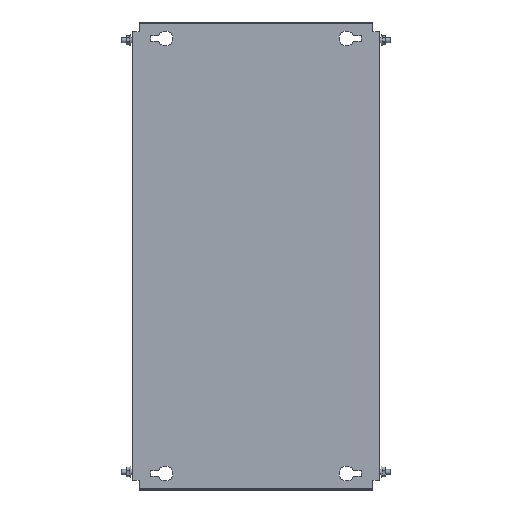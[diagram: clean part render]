
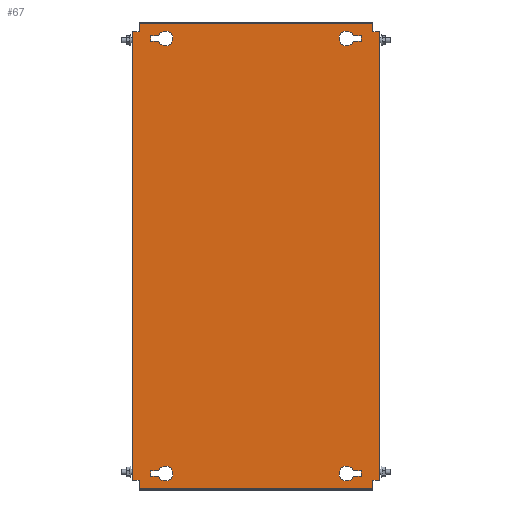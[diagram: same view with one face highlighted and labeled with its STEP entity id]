
A CAD part, top view. The second image highlights one B-rep face of the part: STEP entity #67.
In plain terms, the highlighted planar face has unit normal (0, 0, 1).
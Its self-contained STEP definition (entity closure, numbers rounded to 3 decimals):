
#67 = ADVANCED_FACE('',(#68,#103,#138,#300,#335),#370,.T.);
#68 = FACE_BOUND('',#69,.T.);
#69 = EDGE_LOOP('',(#70,#80,#88,#96));
#70 = ORIENTED_EDGE('',*,*,#71,.T.);
#71 = EDGE_CURVE('',#72,#74,#76,.T.);
#72 = VERTEX_POINT('',#73);
#73 = CARTESIAN_POINT('',(118.393,267.75,2.));
#74 = VERTEX_POINT('',#75);
#75 = CARTESIAN_POINT('',(128.,267.75,2.));
#76 = LINE('',#77,#78);
#77 = CARTESIAN_POINT('',(127.,267.75,2.));
#78 = VECTOR('',#79,1.);
#79 = DIRECTION('',(1.,0.,0.));
#80 = ORIENTED_EDGE('',*,*,#81,.T.);
#81 = EDGE_CURVE('',#74,#82,#84,.T.);
#82 = VERTEX_POINT('',#83);
#83 = CARTESIAN_POINT('',(128.,261.25,2.));
#84 = LINE('',#85,#86);
#85 = CARTESIAN_POINT('',(128.,267.75,2.));
#86 = VECTOR('',#87,1.);
#87 = DIRECTION('',(0.,-1.,0.));
#88 = ORIENTED_EDGE('',*,*,#89,.T.);
#89 = EDGE_CURVE('',#82,#90,#92,.T.);
#90 = VERTEX_POINT('',#91);
#91 = CARTESIAN_POINT('',(118.393,261.25,2.));
#92 = LINE('',#93,#94);
#93 = CARTESIAN_POINT('',(127.,261.25,2.));
#94 = VECTOR('',#95,1.);
#95 = DIRECTION('',(-1.,0.,0.));
#96 = ORIENTED_EDGE('',*,*,#97,.T.);
#97 = EDGE_CURVE('',#90,#72,#98,.T.);
#98 = CIRCLE('',#99,9.);
#99 = AXIS2_PLACEMENT_3D('',#100,#101,#102);
#100 = CARTESIAN_POINT('',(110.,264.5,2.));
#101 = DIRECTION('',(0.,0.,-1.));
#102 = DIRECTION('',(1.,0.,0.));
#103 = FACE_BOUND('',#104,.T.);
#104 = EDGE_LOOP('',(#105,#115,#123,#131));
#105 = ORIENTED_EDGE('',*,*,#106,.T.);
#106 = EDGE_CURVE('',#107,#109,#111,.T.);
#107 = VERTEX_POINT('',#108);
#108 = CARTESIAN_POINT('',(-118.393,-267.75,2.));
#109 = VERTEX_POINT('',#110);
#110 = CARTESIAN_POINT('',(-128.,-267.75,2.));
#111 = LINE('',#112,#113);
#112 = CARTESIAN_POINT('',(-127.,-267.75,2.));
#113 = VECTOR('',#114,1.);
#114 = DIRECTION('',(-1.,0.,0.));
#115 = ORIENTED_EDGE('',*,*,#116,.T.);
#116 = EDGE_CURVE('',#109,#117,#119,.T.);
#117 = VERTEX_POINT('',#118);
#118 = CARTESIAN_POINT('',(-128.,-261.25,2.));
#119 = LINE('',#120,#121);
#120 = CARTESIAN_POINT('',(-128.,-267.75,2.));
#121 = VECTOR('',#122,1.);
#122 = DIRECTION('',(0.,1.,0.));
#123 = ORIENTED_EDGE('',*,*,#124,.T.);
#124 = EDGE_CURVE('',#117,#125,#127,.T.);
#125 = VERTEX_POINT('',#126);
#126 = CARTESIAN_POINT('',(-118.393,-261.25,2.));
#127 = LINE('',#128,#129);
#128 = CARTESIAN_POINT('',(-127.,-261.25,2.));
#129 = VECTOR('',#130,1.);
#130 = DIRECTION('',(1.,0.,-0.));
#131 = ORIENTED_EDGE('',*,*,#132,.T.);
#132 = EDGE_CURVE('',#125,#107,#133,.T.);
#133 = CIRCLE('',#134,9.);
#134 = AXIS2_PLACEMENT_3D('',#135,#136,#137);
#135 = CARTESIAN_POINT('',(-110.,-264.5,2.));
#136 = DIRECTION('',(0.,0.,-1.));
#137 = DIRECTION('',(-1.,0.,0.));
#138 = FACE_BOUND('',#139,.T.);
#139 = EDGE_LOOP('',(#140,#150,#158,#166,#174,#182,#190,#198,#206,#214,
    #222,#230,#238,#246,#254,#262,#270,#278,#286,#294));
#140 = ORIENTED_EDGE('',*,*,#141,.F.);
#141 = EDGE_CURVE('',#142,#144,#146,.T.);
#142 = VERTEX_POINT('',#143);
#143 = CARTESIAN_POINT('',(-147.4,272.5,2.));
#144 = VERTEX_POINT('',#145);
#145 = CARTESIAN_POINT('',(-142.,272.5,2.));
#146 = LINE('',#147,#148);
#147 = CARTESIAN_POINT('',(-148.,272.5,2.));
#148 = VECTOR('',#149,1.);
#149 = DIRECTION('',(1.,0.,-0.));
#150 = ORIENTED_EDGE('',*,*,#151,.T.);
#151 = EDGE_CURVE('',#142,#152,#154,.T.);
#152 = VERTEX_POINT('',#153);
#153 = CARTESIAN_POINT('',(-150.,272.5,2.));
#154 = LINE('',#155,#156);
#155 = CARTESIAN_POINT('',(-147.4,272.5,2.));
#156 = VECTOR('',#157,1.);
#157 = DIRECTION('',(-1.,0.,0.));
#158 = ORIENTED_EDGE('',*,*,#159,.F.);
#159 = EDGE_CURVE('',#160,#152,#162,.T.);
#160 = VERTEX_POINT('',#161);
#161 = CARTESIAN_POINT('',(-150.,-272.5,2.));
#162 = LINE('',#163,#164);
#163 = CARTESIAN_POINT('',(-150.,-282.5,2.));
#164 = VECTOR('',#165,1.);
#165 = DIRECTION('',(0.,1.,-0.));
#166 = ORIENTED_EDGE('',*,*,#167,.F.);
#167 = EDGE_CURVE('',#168,#160,#170,.T.);
#168 = VERTEX_POINT('',#169);
#169 = CARTESIAN_POINT('',(-147.4,-272.5,2.));
#170 = LINE('',#171,#172);
#171 = CARTESIAN_POINT('',(-142.,-272.5,2.));
#172 = VECTOR('',#173,1.);
#173 = DIRECTION('',(-1.,-0.,-0.));
#174 = ORIENTED_EDGE('',*,*,#175,.T.);
#175 = EDGE_CURVE('',#168,#176,#178,.T.);
#176 = VERTEX_POINT('',#177);
#177 = CARTESIAN_POINT('',(-142.,-272.5,2.));
#178 = LINE('',#179,#180);
#179 = CARTESIAN_POINT('',(-148.,-272.5,2.));
#180 = VECTOR('',#181,1.);
#181 = DIRECTION('',(1.,0.,-0.));
#182 = ORIENTED_EDGE('',*,*,#183,.T.);
#183 = EDGE_CURVE('',#176,#184,#186,.T.);
#184 = VERTEX_POINT('',#185);
#185 = CARTESIAN_POINT('',(-142.,-281.9,2.));
#186 = LINE('',#187,#188);
#187 = CARTESIAN_POINT('',(-142.,282.5,2.));
#188 = VECTOR('',#189,1.);
#189 = DIRECTION('',(0.,-1.,0.));
#190 = ORIENTED_EDGE('',*,*,#191,.T.);
#191 = EDGE_CURVE('',#184,#192,#194,.T.);
#192 = VERTEX_POINT('',#193);
#193 = CARTESIAN_POINT('',(-142.,-282.5,2.));
#194 = LINE('',#195,#196);
#195 = CARTESIAN_POINT('',(-142.,-281.9,2.));
#196 = VECTOR('',#197,1.);
#197 = DIRECTION('',(-0.,-1.,-0.));
#198 = ORIENTED_EDGE('',*,*,#199,.T.);
#199 = EDGE_CURVE('',#192,#200,#202,.T.);
#200 = VERTEX_POINT('',#201);
#201 = CARTESIAN_POINT('',(142.,-282.5,2.));
#202 = LINE('',#203,#204);
#203 = CARTESIAN_POINT('',(142.,-282.5,2.));
#204 = VECTOR('',#205,1.);
#205 = DIRECTION('',(1.,0.,0.));
#206 = ORIENTED_EDGE('',*,*,#207,.F.);
#207 = EDGE_CURVE('',#208,#200,#210,.T.);
#208 = VERTEX_POINT('',#209);
#209 = CARTESIAN_POINT('',(142.,-281.9,2.));
#210 = LINE('',#211,#212);
#211 = CARTESIAN_POINT('',(142.,-282.5,2.));
#212 = VECTOR('',#213,1.);
#213 = DIRECTION('',(0.,-1.,0.));
#214 = ORIENTED_EDGE('',*,*,#215,.T.);
#215 = EDGE_CURVE('',#208,#216,#218,.T.);
#216 = VERTEX_POINT('',#217);
#217 = CARTESIAN_POINT('',(142.,-272.5,2.));
#218 = LINE('',#219,#220);
#219 = CARTESIAN_POINT('',(142.,282.5,2.));
#220 = VECTOR('',#221,1.);
#221 = DIRECTION('',(0.,1.,-0.));
#222 = ORIENTED_EDGE('',*,*,#223,.F.);
#223 = EDGE_CURVE('',#224,#216,#226,.T.);
#224 = VERTEX_POINT('',#225);
#225 = CARTESIAN_POINT('',(147.4,-272.5,2.));
#226 = LINE('',#227,#228);
#227 = CARTESIAN_POINT('',(148.,-272.5,2.));
#228 = VECTOR('',#229,1.);
#229 = DIRECTION('',(-1.,0.,-0.));
#230 = ORIENTED_EDGE('',*,*,#231,.T.);
#231 = EDGE_CURVE('',#224,#232,#234,.T.);
#232 = VERTEX_POINT('',#233);
#233 = CARTESIAN_POINT('',(150.,-272.5,2.));
#234 = LINE('',#235,#236);
#235 = CARTESIAN_POINT('',(147.4,-272.5,2.));
#236 = VECTOR('',#237,1.);
#237 = DIRECTION('',(1.,0.,0.));
#238 = ORIENTED_EDGE('',*,*,#239,.F.);
#239 = EDGE_CURVE('',#240,#232,#242,.T.);
#240 = VERTEX_POINT('',#241);
#241 = CARTESIAN_POINT('',(150.,272.5,2.));
#242 = LINE('',#243,#244);
#243 = CARTESIAN_POINT('',(150.,-282.5,2.));
#244 = VECTOR('',#245,1.);
#245 = DIRECTION('',(0.,-1.,-0.));
#246 = ORIENTED_EDGE('',*,*,#247,.F.);
#247 = EDGE_CURVE('',#248,#240,#250,.T.);
#248 = VERTEX_POINT('',#249);
#249 = CARTESIAN_POINT('',(147.4,272.5,2.));
#250 = LINE('',#251,#252);
#251 = CARTESIAN_POINT('',(-142.,272.5,2.));
#252 = VECTOR('',#253,1.);
#253 = DIRECTION('',(1.,-0.,-0.));
#254 = ORIENTED_EDGE('',*,*,#255,.T.);
#255 = EDGE_CURVE('',#248,#256,#258,.T.);
#256 = VERTEX_POINT('',#257);
#257 = CARTESIAN_POINT('',(142.,272.5,2.));
#258 = LINE('',#259,#260);
#259 = CARTESIAN_POINT('',(148.,272.5,2.));
#260 = VECTOR('',#261,1.);
#261 = DIRECTION('',(-1.,0.,-0.));
#262 = ORIENTED_EDGE('',*,*,#263,.T.);
#263 = EDGE_CURVE('',#256,#264,#266,.T.);
#264 = VERTEX_POINT('',#265);
#265 = CARTESIAN_POINT('',(142.,281.9,2.));
#266 = LINE('',#267,#268);
#267 = CARTESIAN_POINT('',(142.,282.5,2.));
#268 = VECTOR('',#269,1.);
#269 = DIRECTION('',(0.,1.,-0.));
#270 = ORIENTED_EDGE('',*,*,#271,.T.);
#271 = EDGE_CURVE('',#264,#272,#274,.T.);
#272 = VERTEX_POINT('',#273);
#273 = CARTESIAN_POINT('',(142.,282.5,2.));
#274 = LINE('',#275,#276);
#275 = CARTESIAN_POINT('',(142.,281.9,2.));
#276 = VECTOR('',#277,1.);
#277 = DIRECTION('',(-0.,1.,-0.));
#278 = ORIENTED_EDGE('',*,*,#279,.T.);
#279 = EDGE_CURVE('',#272,#280,#282,.T.);
#280 = VERTEX_POINT('',#281);
#281 = CARTESIAN_POINT('',(-142.,282.5,2.));
#282 = LINE('',#283,#284);
#283 = CARTESIAN_POINT('',(-142.,282.5,2.));
#284 = VECTOR('',#285,1.);
#285 = DIRECTION('',(-1.,0.,0.));
#286 = ORIENTED_EDGE('',*,*,#287,.F.);
#287 = EDGE_CURVE('',#288,#280,#290,.T.);
#288 = VERTEX_POINT('',#289);
#289 = CARTESIAN_POINT('',(-142.,281.9,2.));
#290 = LINE('',#291,#292);
#291 = CARTESIAN_POINT('',(-142.,-282.5,2.));
#292 = VECTOR('',#293,1.);
#293 = DIRECTION('',(0.,1.,-0.));
#294 = ORIENTED_EDGE('',*,*,#295,.T.);
#295 = EDGE_CURVE('',#288,#144,#296,.T.);
#296 = LINE('',#297,#298);
#297 = CARTESIAN_POINT('',(-142.,282.5,2.));
#298 = VECTOR('',#299,1.);
#299 = DIRECTION('',(0.,-1.,0.));
#300 = FACE_BOUND('',#301,.T.);
#301 = EDGE_LOOP('',(#302,#312,#320,#328));
#302 = ORIENTED_EDGE('',*,*,#303,.F.);
#303 = EDGE_CURVE('',#304,#306,#308,.T.);
#304 = VERTEX_POINT('',#305);
#305 = CARTESIAN_POINT('',(128.,-261.25,2.));
#306 = VERTEX_POINT('',#307);
#307 = CARTESIAN_POINT('',(118.393,-261.25,2.));
#308 = LINE('',#309,#310);
#309 = CARTESIAN_POINT('',(118.393,-261.25,2.));
#310 = VECTOR('',#311,1.);
#311 = DIRECTION('',(-1.,0.,0.));
#312 = ORIENTED_EDGE('',*,*,#313,.F.);
#313 = EDGE_CURVE('',#314,#304,#316,.T.);
#314 = VERTEX_POINT('',#315);
#315 = CARTESIAN_POINT('',(128.,-267.75,2.));
#316 = LINE('',#317,#318);
#317 = CARTESIAN_POINT('',(128.,-261.25,2.));
#318 = VECTOR('',#319,1.);
#319 = DIRECTION('',(0.,1.,0.));
#320 = ORIENTED_EDGE('',*,*,#321,.F.);
#321 = EDGE_CURVE('',#322,#314,#324,.T.);
#322 = VERTEX_POINT('',#323);
#323 = CARTESIAN_POINT('',(118.393,-267.75,2.));
#324 = LINE('',#325,#326);
#325 = CARTESIAN_POINT('',(127.,-267.75,2.));
#326 = VECTOR('',#327,1.);
#327 = DIRECTION('',(1.,0.,0.));
#328 = ORIENTED_EDGE('',*,*,#329,.F.);
#329 = EDGE_CURVE('',#306,#322,#330,.T.);
#330 = CIRCLE('',#331,9.);
#331 = AXIS2_PLACEMENT_3D('',#332,#333,#334);
#332 = CARTESIAN_POINT('',(110.,-264.5,2.));
#333 = DIRECTION('',(0.,-0.,1.));
#334 = DIRECTION('',(1.,0.,0.));
#335 = FACE_BOUND('',#336,.T.);
#336 = EDGE_LOOP('',(#337,#347,#355,#363));
#337 = ORIENTED_EDGE('',*,*,#338,.F.);
#338 = EDGE_CURVE('',#339,#341,#343,.T.);
#339 = VERTEX_POINT('',#340);
#340 = CARTESIAN_POINT('',(-128.,261.25,2.));
#341 = VERTEX_POINT('',#342);
#342 = CARTESIAN_POINT('',(-118.393,261.25,2.));
#343 = LINE('',#344,#345);
#344 = CARTESIAN_POINT('',(-118.393,261.25,2.));
#345 = VECTOR('',#346,1.);
#346 = DIRECTION('',(1.,0.,0.));
#347 = ORIENTED_EDGE('',*,*,#348,.F.);
#348 = EDGE_CURVE('',#349,#339,#351,.T.);
#349 = VERTEX_POINT('',#350);
#350 = CARTESIAN_POINT('',(-128.,267.75,2.));
#351 = LINE('',#352,#353);
#352 = CARTESIAN_POINT('',(-128.,261.25,2.));
#353 = VECTOR('',#354,1.);
#354 = DIRECTION('',(0.,-1.,0.));
#355 = ORIENTED_EDGE('',*,*,#356,.F.);
#356 = EDGE_CURVE('',#357,#349,#359,.T.);
#357 = VERTEX_POINT('',#358);
#358 = CARTESIAN_POINT('',(-118.393,267.75,2.));
#359 = LINE('',#360,#361);
#360 = CARTESIAN_POINT('',(-127.,267.75,2.));
#361 = VECTOR('',#362,1.);
#362 = DIRECTION('',(-1.,0.,0.));
#363 = ORIENTED_EDGE('',*,*,#364,.F.);
#364 = EDGE_CURVE('',#341,#357,#365,.T.);
#365 = CIRCLE('',#366,9.);
#366 = AXIS2_PLACEMENT_3D('',#367,#368,#369);
#367 = CARTESIAN_POINT('',(-110.,264.5,2.));
#368 = DIRECTION('',(0.,-0.,1.));
#369 = DIRECTION('',(-1.,0.,0.));
#370 = PLANE('',#371);
#371 = AXIS2_PLACEMENT_3D('',#372,#373,#374);
#372 = CARTESIAN_POINT('',(-142.,-282.5,2.));
#373 = DIRECTION('',(-0.,0.,1.));
#374 = DIRECTION('',(1.,0.,0.));
